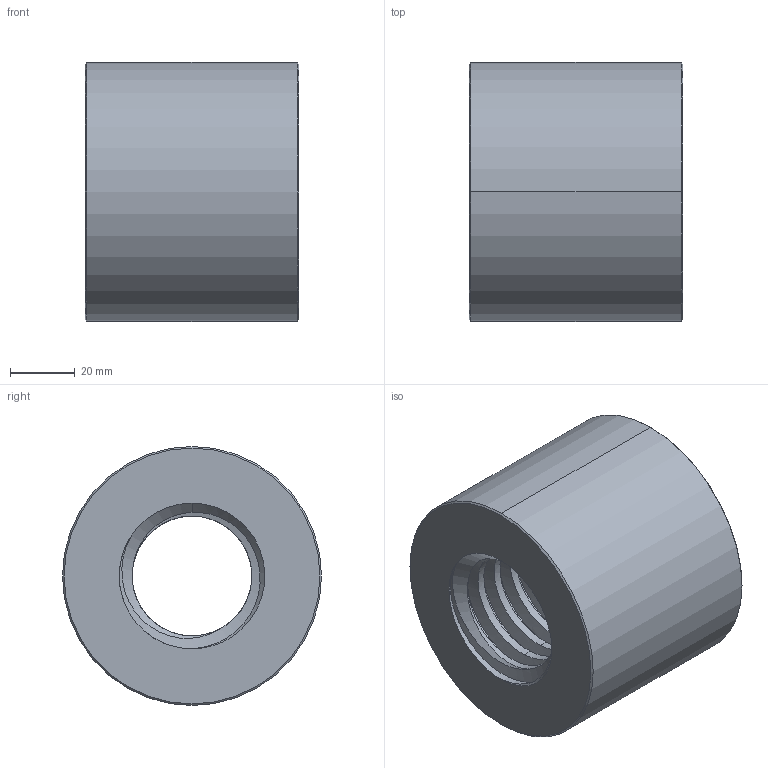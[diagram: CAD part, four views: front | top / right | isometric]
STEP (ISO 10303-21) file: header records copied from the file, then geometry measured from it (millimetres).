
FILE_DESCRIPTION((''),'2;1');
FILE_NAME('716-044-1100_PRT','2024-03-23T',('Brieden'),('ib-brieden'),'PRO/ENGINEER BY PARAMETRIC TECHNOLOGY CORPORATION, 2010160','PRO/ENGINEER BY PARAMETRIC TECHNOLOGY CORPORATION, 2010160','');
FILE_SCHEMA(('AUTOMOTIVE_DESIGN { 1 0 10303 214 1 1 1 1 }'));
Length unit declared in the file: millimetre
Products named in the file (1): 716-044-1100_PRT
Bounding box: 66 x 80 x 80 mm (x, y, z)
Volume: 243614.2 mm3; surface area: 39082.6 mm2
Topology: 1 solids, 1 shells, 37 faces, 93 edges, 58 vertices
Faces by surface type: cylinder 18, bspline 9, cone 8, plane 2
Entity records: 5831 total; most frequent: CARTESIAN_POINT 4998, ORIENTED_EDGE 186, DIRECTION 113, EDGE_CURVE 93, VERTEX_POINT 58, B_SPLINE_CURVE_WITH_KNOTS 50, AXIS2_PLACEMENT_3D 42, EDGE_LOOP 39
